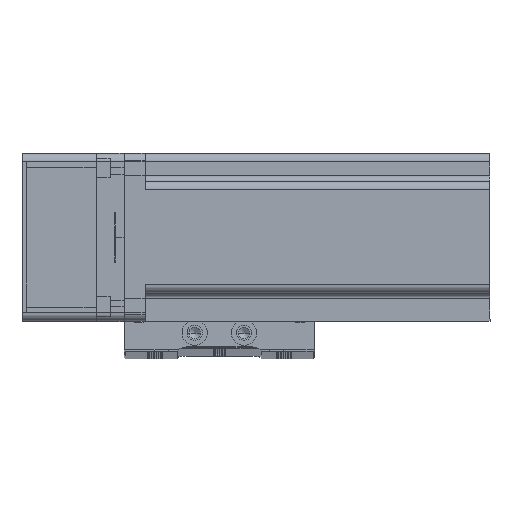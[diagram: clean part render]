
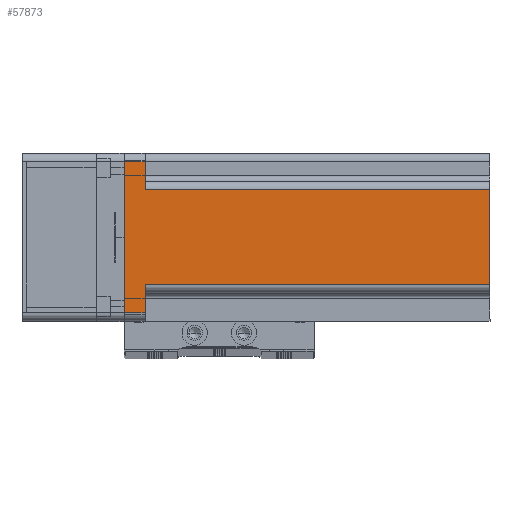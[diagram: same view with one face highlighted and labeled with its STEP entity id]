
A CAD part, top view. The second image highlights one B-rep face of the part: STEP entity #57873.
In plain terms, the highlighted planar face has unit normal (0, 0, 1) as drawn and (0, 1, 0) by its records, which use the part's own axes.
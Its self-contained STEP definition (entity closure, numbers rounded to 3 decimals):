
#833 = ORIENTED_EDGE ( 'NONE', *, *, #58666, .F. ) ;
#3705 = CARTESIAN_POINT ( 'NONE',  ( 17., 30., 130.7 ) ) ;
#4853 = DIRECTION ( 'NONE',  ( 0., 0., -1. ) ) ;
#5671 = EDGE_CURVE ( 'NONE', #25707, #42290, #41341, .T. ) ;
#6908 = CARTESIAN_POINT ( 'NONE',  ( 27., 30., 130.7 ) ) ;
#8111 = VERTEX_POINT ( 'NONE', #29179 ) ;
#8566 = CARTESIAN_POINT ( 'NONE',  ( -17., 30., 130.7 ) ) ;
#11036 = CARTESIAN_POINT ( 'NONE',  ( -17., 30., 7.5 ) ) ;
#11135 = EDGE_CURVE ( 'NONE', #11379, #8111, #59199, .T. ) ;
#11379 = VERTEX_POINT ( 'NONE', #11036 ) ;
#12099 = VERTEX_POINT ( 'NONE', #36309 ) ;
#12259 = LINE ( 'NONE', #43010, #23317 ) ;
#12527 = LINE ( 'NONE', #59561, #47428 ) ;
#12587 = EDGE_CURVE ( 'NONE', #12099, #11379, #12527, .T. ) ;
#13336 = CARTESIAN_POINT ( 'NONE',  ( -27., 30., 130.7 ) ) ;
#13749 = VERTEX_POINT ( 'NONE', #60038 ) ;
#15436 = CARTESIAN_POINT ( 'NONE',  ( 30., 30., 130.7 ) ) ;
#16688 = ORIENTED_EDGE ( 'NONE', *, *, #11135, .T. ) ;
#16995 = CARTESIAN_POINT ( 'NONE',  ( -27., 30., 0. ) ) ;
#17938 = EDGE_LOOP ( 'NONE', ( #43759, #16688, #48329, #30751, #833, #55036, #53106, #34544 ) ) ;
#18057 = DIRECTION ( 'NONE',  ( 0., 0., 1. ) ) ;
#21277 = DIRECTION ( 'NONE',  ( -1., 0., 0. ) ) ;
#21486 = CARTESIAN_POINT ( 'NONE',  ( 30., 30., 130.7 ) ) ;
#21525 = DIRECTION ( 'NONE',  ( 1., 0., 0. ) ) ;
#22437 = VERTEX_POINT ( 'NONE', #30382 ) ;
#22911 = LINE ( 'NONE', #13336, #56361 ) ;
#23317 = VECTOR ( 'NONE', #28825, 1000. ) ;
#24654 = VECTOR ( 'NONE', #40063, 1000. ) ;
#25707 = VERTEX_POINT ( 'NONE', #3705 ) ;
#25984 = EDGE_CURVE ( 'NONE', #25707, #8111, #54964, .T. ) ;
#26233 = DIRECTION ( 'NONE',  ( 1., 0., 0. ) ) ;
#28825 = DIRECTION ( 'NONE',  ( -1., 0., 0. ) ) ;
#29179 = CARTESIAN_POINT ( 'NONE',  ( -17., 30., 130.7 ) ) ;
#30382 = CARTESIAN_POINT ( 'NONE',  ( 27., 30., 0. ) ) ;
#30751 = ORIENTED_EDGE ( 'NONE', *, *, #5671, .T. ) ;
#32398 = VECTOR ( 'NONE', #46550, 1000. ) ;
#32974 = CARTESIAN_POINT ( 'NONE',  ( 17., 30., 7.5 ) ) ;
#33919 = FACE_OUTER_BOUND ( 'NONE', #17938, .T. ) ;
#34544 = ORIENTED_EDGE ( 'NONE', *, *, #39417, .T. ) ;
#35033 = VERTEX_POINT ( 'NONE', #16995 ) ;
#36309 = CARTESIAN_POINT ( 'NONE',  ( -27., 30., 7.5 ) ) ;
#36621 = AXIS2_PLACEMENT_3D ( 'NONE', #21486, #54715, #26233 ) ;
#39038 = DIRECTION ( 'NONE',  ( -1., 0., 0. ) ) ;
#39417 = EDGE_CURVE ( 'NONE', #35033, #12099, #22911, .T. ) ;
#40063 = DIRECTION ( 'NONE',  ( 0., 0., -1. ) ) ;
#40818 = VECTOR ( 'NONE', #39038, 1000. ) ;
#40875 = EDGE_CURVE ( 'NONE', #13749, #22437, #50016, .T. ) ;
#41341 = LINE ( 'NONE', #42984, #45855 ) ;
#42290 = VERTEX_POINT ( 'NONE', #32974 ) ;
#42984 = CARTESIAN_POINT ( 'NONE',  ( 17., 30., 130.7 ) ) ;
#43010 = CARTESIAN_POINT ( 'NONE',  ( 20., 30., 7.5 ) ) ;
#43759 = ORIENTED_EDGE ( 'NONE', *, *, #12587, .T. ) ;
#45855 = VECTOR ( 'NONE', #4853, 1000. ) ;
#46550 = DIRECTION ( 'NONE',  ( 0., 0., 1. ) ) ;
#47428 = VECTOR ( 'NONE', #21525, 1000. ) ;
#48329 = ORIENTED_EDGE ( 'NONE', *, *, #25984, .F. ) ;
#49764 = CARTESIAN_POINT ( 'NONE',  ( 30., 30., 0. ) ) ;
#50016 = LINE ( 'NONE', #6908, #24654 ) ;
#50160 = VECTOR ( 'NONE', #21277, 1000. ) ;
#51686 = EDGE_CURVE ( 'NONE', #22437, #35033, #56790, .T. ) ;
#53106 = ORIENTED_EDGE ( 'NONE', *, *, #51686, .T. ) ;
#54302 = PLANE ( 'NONE',  #36621 ) ;
#54715 = DIRECTION ( 'NONE',  ( 0., -1., 0. ) ) ;
#54964 = LINE ( 'NONE', #15436, #40818 ) ;
#55036 = ORIENTED_EDGE ( 'NONE', *, *, #40875, .T. ) ;
#56361 = VECTOR ( 'NONE', #18057, 1000. ) ;
#56790 = LINE ( 'NONE', #49764, #50160 ) ;
#57873 = ADVANCED_FACE ( 'NONE', ( #33919 ), #54302, .F. ) ;
#58666 = EDGE_CURVE ( 'NONE', #13749, #42290, #12259, .T. ) ;
#59199 = LINE ( 'NONE', #8566, #32398 ) ;
#59561 = CARTESIAN_POINT ( 'NONE',  ( -20., 30., 7.5 ) ) ;
#60038 = CARTESIAN_POINT ( 'NONE',  ( 27., 30., 7.5 ) ) ;
